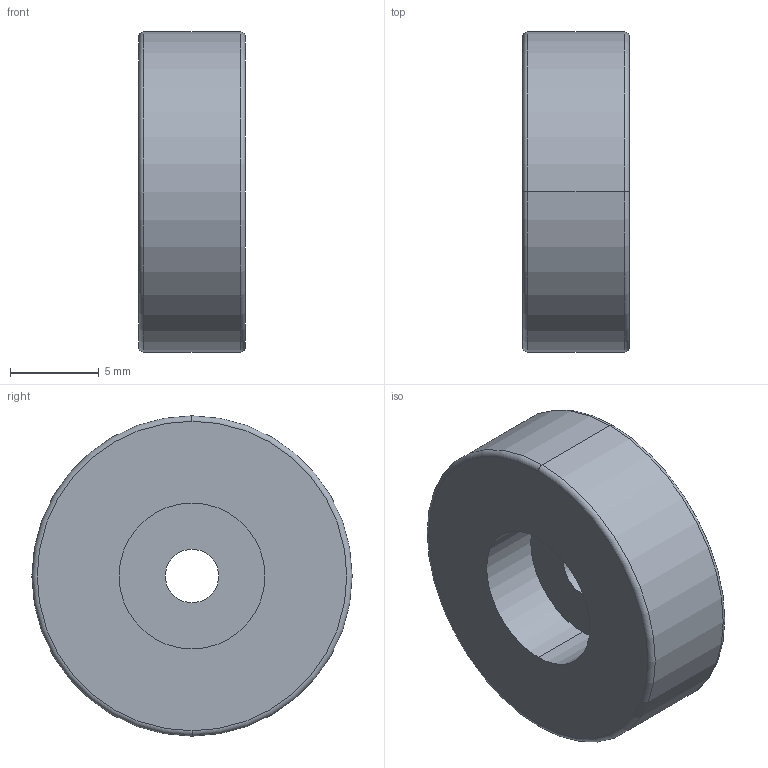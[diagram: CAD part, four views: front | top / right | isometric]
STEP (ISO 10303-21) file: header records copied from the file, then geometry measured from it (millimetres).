
FILE_DESCRIPTION (( 'STEP AP214' ), '1' );
FILE_NAME ('51.4-ND-18-WS.step', '2020-11-27T13:43:30', ( '' ), ( '' ), 'SwSTEP 2.0', 'SolidWorks 2019', '' );
FILE_SCHEMA (( 'AUTOMOTIVE_DESIGN' ));
Length unit declared in the file: millimetre
Products named in the file (1): 51.4-ND-18-WS
Bounding box: 6 x 18 x 18 mm (x, y, z)
Volume: 1300.9 mm3; surface area: 942.6 mm2
Topology: 1 solids, 1 shells, 16 faces, 32 edges, 20 vertices
Faces by surface type: cylinder 8, torus 4, plane 4
Entity records: 631 total; most frequent: DIRECTION 90, CARTESIAN_POINT 69, ORIENTED_EDGE 64, AXIS2_PLACEMENT_3D 41, EDGE_CURVE 32, CIRCLE 24, EDGE_LOOP 20, VERTEX_POINT 20
